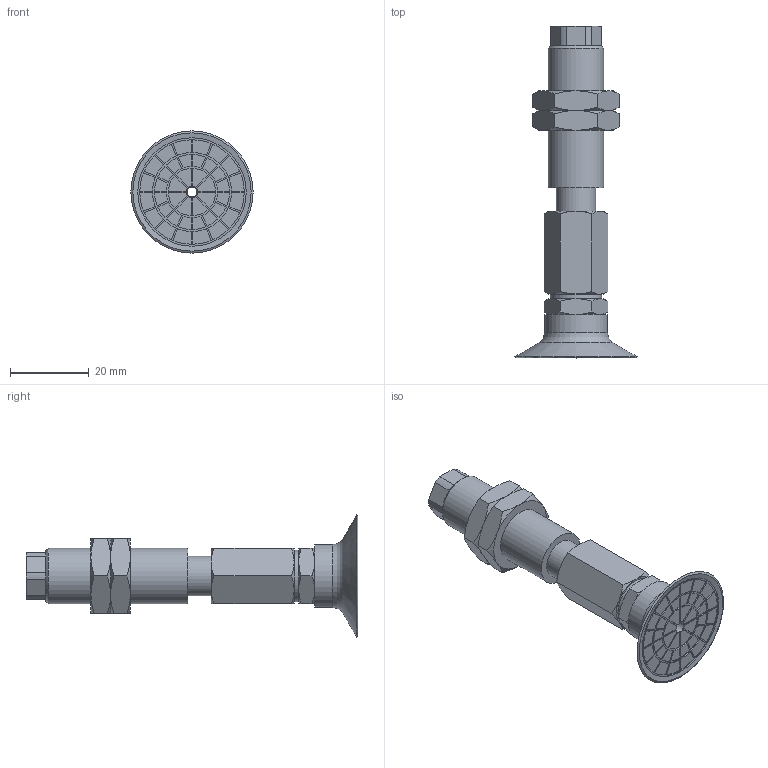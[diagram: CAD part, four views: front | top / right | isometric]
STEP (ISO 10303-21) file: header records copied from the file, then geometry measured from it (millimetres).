
FILE_DESCRIPTION(('STEP AP203'),'1');
FILE_NAME('.stp','2025-08-26T09:06:27',(' '),(' '),'Spatial InterOp 3D',' ',' ');
FILE_SCHEMA(('CONFIG_CONTROL_DESIGN'));
Length unit declared in the file: millimetre
Products named in the file (7): BNABPATS-30B-6-※; ADAPTER; NAPATS-30B-6--M; NAPATS-30B-6--F; Nut-25-S; TN-PA-30B-M6; BPAG-30B-※_3D
Assembly tree (7 placements, depth 2):
  BNABPATS-30B-6-※
    ADAPTER
    NAPATS-30B-6--M
    NAPATS-30B-6--F
    Nut-25-S  x2
    TN-PA-30B-M6
    BPAG-30B-※_3D
Bounding box: 31.04 x 84.2 x 31.04 mm (x, y, z)
Volume: 15335.7 mm3; surface area: 11713 mm2
Topology: 7 solids, 7 shells, 348 faces, 812 edges, 519 vertices
Faces by surface type: plane 185, cylinder 97, cone 60, torus 6
Full cylindrical faces by diameter (mm): 2.5 x1, 3 x3, 4.134 x1, 4.917 x1, 6 x3, 10 x4, 12.917 x2, 13 x1, 14 x1, 16 x1, 27.5 x1
Entity records: 9685 total; most frequent: CARTESIAN_POINT 1923, DIRECTION 1579, ORIENTED_EDGE 1444, EDGE_CURVE 722, AXIS2_PLACEMENT_3D 596, VERTEX_POINT 484, EDGE_LOOP 412, LINE 387
